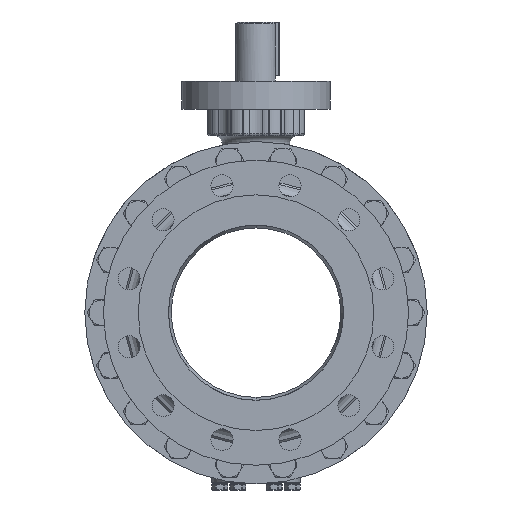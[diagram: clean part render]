
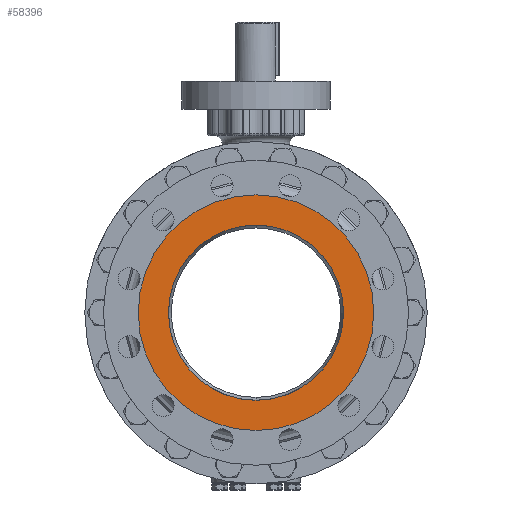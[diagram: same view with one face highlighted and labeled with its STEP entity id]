
A CAD part, left-side view. The second image highlights one B-rep face of the part: STEP entity #58396.
In plain terms, the highlighted planar face has unit normal (-1, 0, 0).
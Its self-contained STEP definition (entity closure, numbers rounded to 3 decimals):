
#3322=CARTESIAN_POINT('',(-228.5,0.,0.));
#3323=DIRECTION('',(1.,0.,0.));
#3324=DIRECTION('',(0.,0.,1.));
#3325=AXIS2_PLACEMENT_3D('',#3322,#3323,#3324);
#3327=CARTESIAN_POINT('',(-228.5,0.,0.));
#3328=DIRECTION('',(1.,0.,0.));
#3329=DIRECTION('',(0.,0.,-1.));
#3330=AXIS2_PLACEMENT_3D('',#3327,#3328,#3329);
#3332=CARTESIAN_POINT('',(-228.5,0.,0.));
#3333=DIRECTION('',(1.,0.,0.));
#3334=DIRECTION('',(0.,0.,1.));
#3335=AXIS2_PLACEMENT_3D('',#3332,#3333,#3334);
#3337=CARTESIAN_POINT('',(-228.5,0.,0.));
#3338=DIRECTION('',(-1.,0.,0.));
#3339=DIRECTION('',(0.,0.,1.));
#3340=AXIS2_PLACEMENT_3D('',#3337,#3338,#3339);
#49143=CARTESIAN_POINT('',(-228.5,0.,103.35));
#49145=VERTEX_POINT('',#49143);
#49147=CARTESIAN_POINT('',(-228.5,0.,-103.35));
#49149=VERTEX_POINT('',#49147);
#49178=CARTESIAN_POINT('',(-228.5,0.,139.));
#49179=CARTESIAN_POINT('',(-228.5,0.,-139.));
#49180=VERTEX_POINT('',#49178);
#49181=VERTEX_POINT('',#49179);
#58380=CARTESIAN_POINT('',(-228.5,0.,0.));
#58381=DIRECTION('',(-1.,0.,0.));
#58382=DIRECTION('',(0.,0.,-1.));
#58383=AXIS2_PLACEMENT_3D('',#58380,#58381,#58382);
#58384=PLANE('',#58383);
#58386=ORIENTED_EDGE('',*,*,#58385,.T.);
#58387=ORIENTED_EDGE('',*,*,#58370,.T.);
#58388=EDGE_LOOP('',(#58386,#58387));
#58389=FACE_OUTER_BOUND('',#58388,.F.);
#58391=ORIENTED_EDGE('',*,*,#58390,.F.);
#58393=ORIENTED_EDGE('',*,*,#58392,.T.);
#58394=EDGE_LOOP('',(#58391,#58393));
#58395=FACE_BOUND('',#58394,.F.);
#58396=ADVANCED_FACE('',(#58389,#58395),#58384,.T.);
#3326=CIRCLE('',#3325,139.);
#3331=CIRCLE('',#3330,139.);
#3336=CIRCLE('',#3335,103.35);
#3341=CIRCLE('',#3340,103.35);
#58370=EDGE_CURVE('',#49181,#49180,#3331,.T.);
#58385=EDGE_CURVE('',#49180,#49181,#3326,.T.);
#58390=EDGE_CURVE('',#49145,#49149,#3336,.T.);
#58392=EDGE_CURVE('',#49145,#49149,#3341,.T.);
